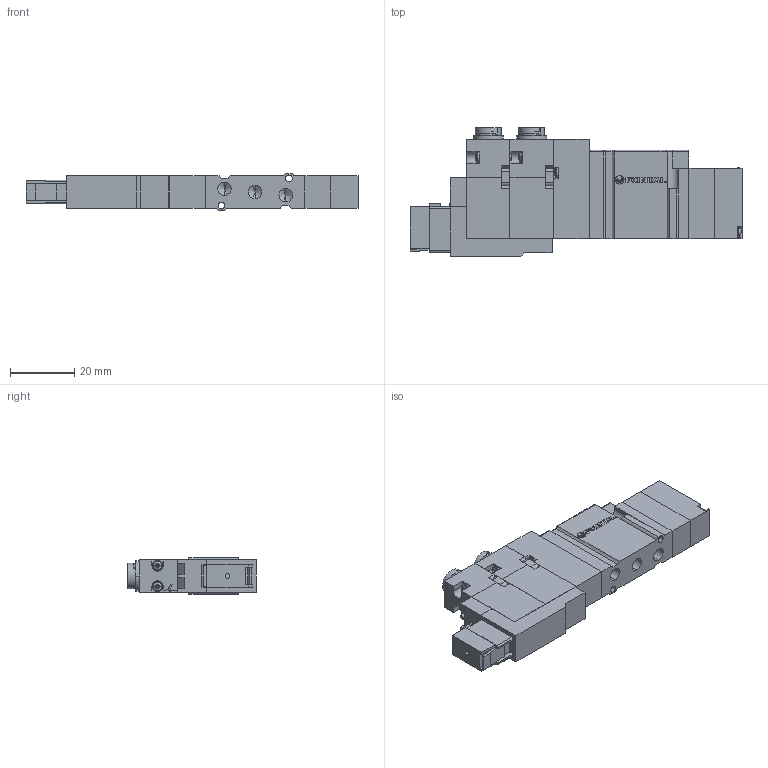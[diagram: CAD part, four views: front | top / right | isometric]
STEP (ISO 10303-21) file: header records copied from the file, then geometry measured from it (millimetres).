
FILE_DESCRIPTION (( 'STEP AP203' ), '1' );
FILE_NAME ('A05FD(E¡BO)35#-#-#-E.STEP', '2016-02-04T01:48:38', ( 'Sam Lin' ), ( '' ), 'SwSTEP 2.0', 'SolidWorks 2013', '' );
FILE_SCHEMA (( 'CONFIG_CONTROL_DESIGN' ));
Length unit declared in the file: metre
Products named in the file (15): A05FD(E、O)35#-#-#-E; A05RS25-6; DC24-A05F-1; DC24-A05G-3; A05RS25-1; DC24-A05F-2; ISO 7045 - M1.6 x 10; A05FS25-6; mark-ADEX-A05RS; A05FS25-2; A05RS25-3; A05FS25-4; A05RS25-4; A05FS25-5; A05RS25-5
Assembly tree (27 placements, depth 2):
  A05FD(E、O)35#-#-#-E
    A05RS25-1
    ISO 7045 - M1.6 x 10  x8
    mark-ADEX-A05RS
    A05RS25-3  x2
    A05RS25-4  x2
    A05RS25-5  x2
    A05RS25-6  x4
    DC24-A05F-1
    DC24-A05G-3
    DC24-A05F-2
    A05FS25-6
    A05FS25-2
    A05FS25-4
    A05FS25-5
Bounding box: 103.3 x 40.1 x 11.4 mm (x, y, z)
Volume: 26054.4 mm3; surface area: 16490.1 mm2
Topology: 35 solids, 35 shells, 898 faces, 2288 edges, 1452 vertices
Faces by surface type: plane 572, cylinder 174, cone 86, bspline 66
Entity records: 16649 total; most frequent: CARTESIAN_POINT 3291, ORIENTED_EDGE 2378, DIRECTION 2323, EDGE_CURVE 1189, LINE 869, VECTOR 869, VERTEX_POINT 779, AXIS2_PLACEMENT_3D 727
